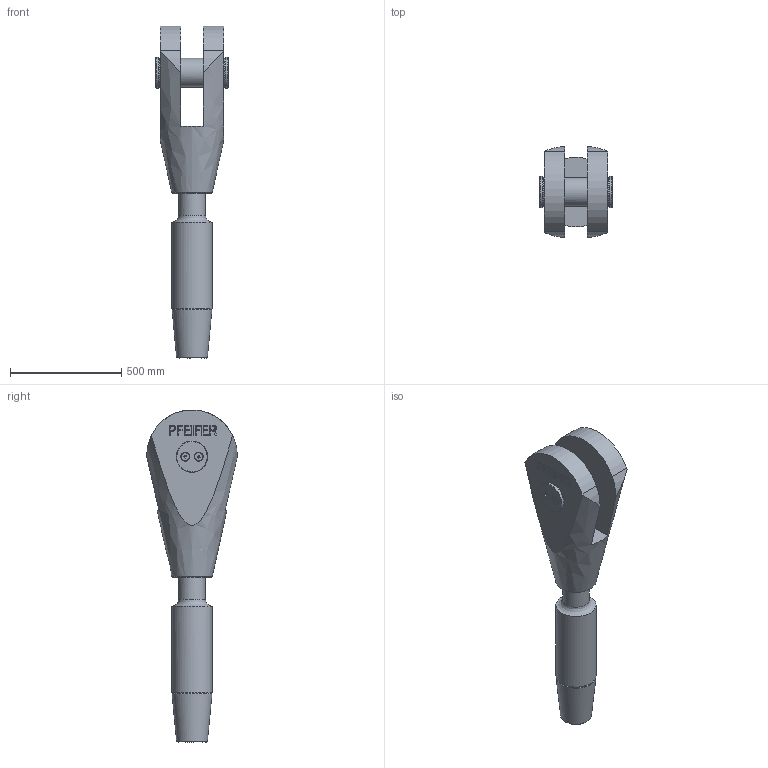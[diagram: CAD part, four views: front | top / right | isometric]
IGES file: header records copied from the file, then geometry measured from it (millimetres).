
Global section: file name: 520-120-GAK-ADA; native system: Autodesk Inventor 2016; preprocessor: unknown; author: Administrator; date: 20200703.131644; units: centimetre
Bounding box: 327 x 407.09 x 1489.44 mm (x, y, z)
Volume: 55644476.3 mm3; surface area: 1721808.1 mm2
Topology: 3 solids, 10 shells, 247 faces, 652 edges, 439 vertices
Faces by surface type: bspline 247
